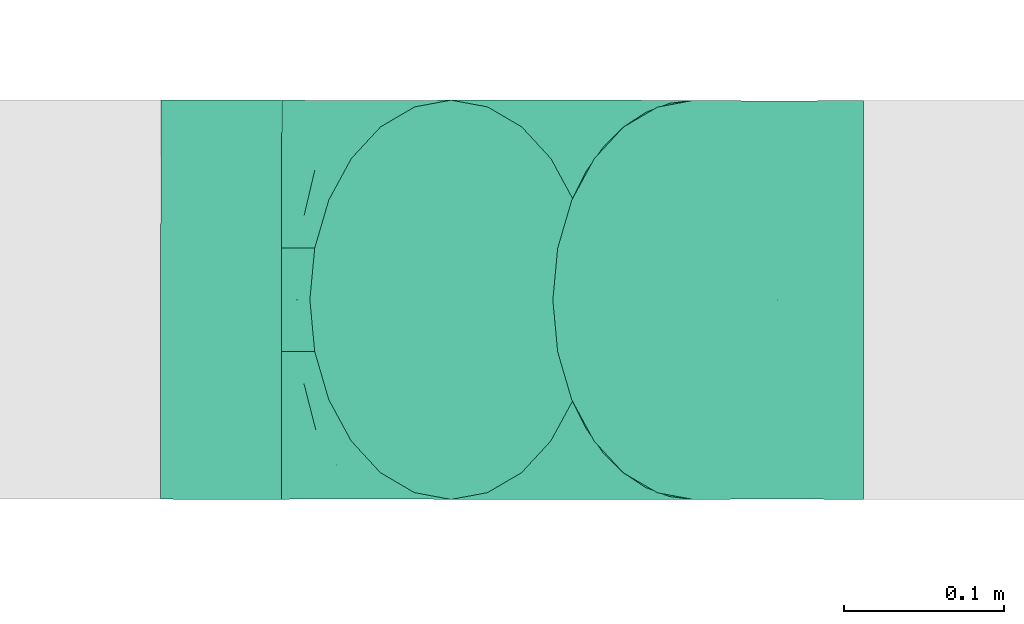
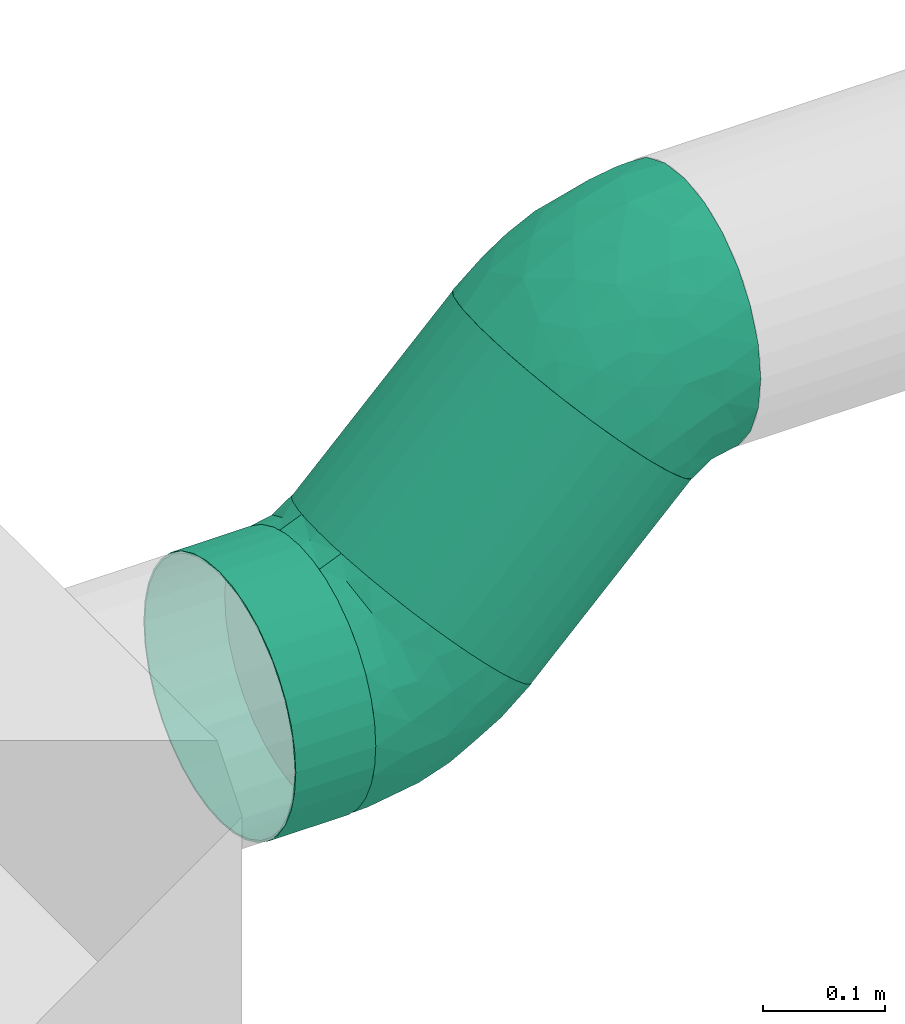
# One storey, part 38 of 63: 2 flow fittings, 2 flow segments.
"""IFC2X3 building model written with IfcOpenShell, lengths in millimetres."""

from ifc_helpers import new_model, entity, si_unit, converted_unit, derived_unit, direction, frame, origin_with_axes, origin_2d_with_axis, place, context, subcontext, project, spatial, hollow_circle, extrude, open_shell, surface_model, source, transform, mapped, type_object, element, save


model = new_model("IFC2X3")

# Units and contexts
model_context = context("Model", 3, precision=0.01, world=frame((0.0, 4.29681676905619e-09, 0.0)), true_north=direction((4.01073788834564e-13, 1.0)))
plan_context = context("Plan", 3, precision=0.01, world=frame((0.0, 4.29681676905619e-09, 0.0)), true_north=direction((4.01073788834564e-13, 1.0)))
body_context = subcontext(model_context, "Body", "Model", "MODEL_VIEW")
ifc_project = project(units=[converted_unit("PLANEANGLEUNIT", "DEGREE", entity("IfcPositiveLengthMeasure", 0.0174532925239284), si_unit("PLANEANGLEUNIT", "RADIAN"), dimensions=[0, 0, 0, 0, 0, 0, 0]), si_unit("AREAUNIT", "SQUARE_METRE"), si_unit("LENGTHUNIT", "METRE", prefix="MILLI"), si_unit("MASSUNIT", "GRAM", prefix="KILO"), si_unit("POWERUNIT", "WATT"), si_unit("PRESSUREUNIT", "PASCAL"), si_unit("FORCEUNIT", "NEWTON", prefix="KILO"), si_unit("ELECTRICVOLTAGEUNIT", "VOLT"), si_unit("ELECTRICCURRENTUNIT", "AMPERE"), si_unit("THERMODYNAMICTEMPERATUREUNIT", "DEGREE_CELSIUS"), si_unit("TIMEUNIT", "SECOND"), si_unit("VOLUMEUNIT", "CUBIC_METRE"), derived_unit("LINEARVELOCITYUNIT", [(si_unit("LENGTHUNIT", "METRE"), 1), (si_unit("TIMEUNIT", "SECOND"), -1)]), derived_unit("VOLUMETRICFLOWRATEUNIT", [(si_unit("VOLUMEUNIT", "CUBIC_METRE"), 1), (si_unit("TIMEUNIT", "SECOND"), -1)]), derived_unit("THERMALTRANSMITTANCEUNIT", [(si_unit("POWERUNIT", "WATT"), 1), (si_unit("THERMODYNAMICTEMPERATUREUNIT", "KELVIN"), -1), (si_unit("AREAUNIT", "SQUARE_METRE"), -1)]), derived_unit("SOUNDPRESSUREUNIT", [(si_unit("PRESSUREUNIT", "PASCAL"), 1)])], contexts=[model_context, plan_context])

# Site, building, storey
site_placement = place(None, frame((0.0, -4.29681676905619e-09, 0.0), z_axis=(0.0, 0.0, 1.0), x_axis=(1.0, 0.0, 0.0)))
site = spatial("IfcSite", under=ifc_project, at=site_placement, CompositionType="ELEMENT")
building_placement = place(site_placement, frame((0.0, 4.29681676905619e-09, 0.0), z_axis=(0.0, 0.0, 1.0), x_axis=(1.0, 0.0, 0.0)))
building = spatial("IfcBuilding", under=site, at=building_placement, Name="mc-building", CompositionType="ELEMENT")
storey_placement = place(building_placement, frame((0.0, 0.0, 210900.0), z_axis=(0.0, 0.0, 1.0), x_axis=(1.0, 0.0, 0.0)))
storey = spatial("IfcBuildingStorey", under=building, at=storey_placement, Name="Nivå F", CompositionType="ELEMENT", Elevation=210900.0)

# Flow fittings
duct_fitting_type = type_object("IfcDuctFittingType", Name="magicirc_elbow_short_001", PredefinedType="BEND")
shared_shape_1 = source(origin_with_axes(), body_context, "Body", "SurfaceModel", [
    surface_model("IfcShellBasedSurfaceModel", [(-62.13204, 0.0, -125.0), (-62.13204, -32.35238, -120.74073), (-62.13204, 32.35238, -120.74073), (-62.13204, 62.5, -108.25318), (-62.13204, 88.38835, -88.38835), (-62.13204, 108.25318, -62.5), (-62.13204, 120.74073, -32.35238), (-62.13204, -62.5, -108.25318), (-62.13204, -88.38835, -88.38835), (-62.13204, -125.0, 0.0), (-62.13204, -108.25318, -62.5), (-62.13204, -120.74073, -32.35238), (-62.13204, 125.0, 0.0), (-62.13204, -120.74073, 32.35238), (-62.13204, 120.74073, 32.35238), (-62.13204, 108.25318, 62.5), (-62.13204, 32.35238, 120.74073), (-62.13204, 62.5, 108.25318), (-62.13204, 88.38835, 88.38835), (-62.13204, -88.38835, 88.38835), (-62.13204, -108.25318, 62.5), (-62.13204, -32.35238, 120.74073), (-62.13204, 0.0, 125.0), (-62.13204, -62.5, 108.25318), (-32.61257, 120.48054, -62.5), (-41.44261, 129.31057, -32.35238), (-44.45436, 132.32233, 0.0), (-41.44261, 129.31057, 32.35238), (-32.61257, 120.48054, 62.5), (-39.32094, -100.77129, 72.52866), (-25.3983, -115.58366, 40.92131), (-9.38975, -99.61313, 67.6303), (-40.71594, 99.20513, 81.38635), (-18.56602, 106.43398, 88.38835), (6.93461, -16.74165, 121.22697), (-29.92798, -19.88945, 122.8817), (-17.69423, -50.99343, 111.83063), (-28.63512, 12.8945, 124.68547), (-43.55871, 45.16564, 117.17454), (-19.1971, 46.34588, 119.14586), (20.11216, -107.05726, 35.36285), (37.22525, -89.79474, 60.1728), (-42.64489, 65.81413, 107.6176), (18.18237, -43.89615, 109.72868), (-48.14682, 116.23669, 52.46898), (11.13029, 29.36587, 124.68547), (-8.4822, -119.71595, 0.0), (17.31186, -111.89141, 0.0), (-27.44697, 77.92943, 103.54984), (-1.13628, 62.73759, 117.17454), (-0.26019, 88.12816, 108.25318), (29.58221, -71.41779, 87.09722), (2.27359, -83.55864, 84.32151), (46.20365, -49.09439, 98.73245), (43.10591, -104.06687, 0.0), (-28.63512, 12.89449, -124.68547), (-29.92797, -19.88945, -122.8817), (11.13029, 29.36586, -124.68547), (-19.1971, 46.34588, -119.14586), (-43.55871, 45.16564, -117.17454), (-35.69649, 74.51237, -103.54983), (-25.3983, -115.58366, -40.92131), (-48.14682, 116.23669, -52.46898), (-39.32094, -100.77129, -72.52866), (-16.38313, 76.69211, -107.6176), (-18.56602, 106.43398, -88.38835), (-0.26019, 88.12816, -108.25318), (-17.69423, -50.99343, -111.83063), (6.93461, -16.74165, -121.22697), (-1.13628, 62.73759, -117.17454), (48.5695, -23.54609, -111.83063), (35.22623, 7.0983, -122.8817), (-9.38975, -99.61313, -67.63031), (2.04406, -67.38589, -98.73245), (29.58221, -71.41778, -87.09723), (43.93399, 43.934, -125.0), (106.43399, -18.56599, 88.38835), (132.32235, -44.45434, 0.0), (21.05739, 66.81058, -120.74073), (88.12817, -0.26017, 108.25318), (66.81057, 21.05741, -120.74073), (106.43399, -18.56599, -88.38835), (88.12817, -0.26017, -108.25318), (129.31058, -41.44258, -32.35238), (120.48055, -32.61255, -62.5), (21.05739, 66.81058, 120.74073), (43.93399, 43.934, 125.0), (129.31058, -41.44258, 32.35238), (120.48055, -32.61255, 62.5), (66.81057, 21.05741, 120.74073), (-31.08246, -121.94188, 0.0), (35.22622, 7.09831, 122.8817), (-25.98217, -78.69805, 94.74512), (-3.43913, -67.17105, 100.02812), (77.07669, -63.79755, 67.6303), (61.9235, -89.5906, 35.66991), (-52.56496, 126.90301, 0.0), (99.68931, -63.77067, 40.92131), (48.5695, -23.54609, 111.83062), (99.06018, -43.45194, 72.52866), (74.0201, -37.27574, 94.74512), (108.20455, -64.2473, 0.0), (90.64979, -78.65413, 0.0), (66.87785, -91.36049, 0.0), (19.56361, -107.13664, -35.66991), (-41.35812, 98.93914, -81.38635), (-25.98217, -78.69805, -94.74512), (61.47949, -89.92235, -35.36285), (18.18239, -43.89616, -109.72867), (57.47721, -60.69254, -84.32152), (74.02009, -37.27574, -94.74513), (77.07669, -63.79755, -67.6303), (37.17223, -89.81669, -60.17279), (99.68931, -63.77066, -40.92131), (99.06018, -43.45194, -72.52866), (49.92893, -45.06527, -100.02812)], [open_shell([[[0, 1, 2]], [[3, 2, 4]], [[1, 5, 2]], [[4, 2, 5]], [[5, 1, 6]], [[7, 8, 1]], [[9, 1, 8]], [[10, 11, 8]], [[9, 8, 11]], [[9, 6, 1]], [[9, 12, 6]], [[12, 13, 14]], [[15, 14, 16]], [[16, 17, 18]], [[15, 16, 18]], [[16, 14, 19]], [[20, 19, 13]], [[19, 14, 13]], [[21, 22, 23]], [[19, 23, 22]], [[19, 22, 16]], [[9, 13, 12]], [[24, 25, 26]], [[26, 27, 28]], [[29, 30, 31]], [[32, 33, 28]], [[30, 20, 13]], [[34, 35, 36]], [[21, 35, 22]], [[21, 23, 36]], [[16, 22, 37]], [[38, 37, 39]], [[31, 40, 41]], [[42, 17, 38]], [[38, 17, 16]], [[43, 34, 36]], [[35, 37, 22]], [[14, 15, 44]], [[42, 32, 18]], [[29, 19, 20]], [[40, 31, 30]], [[37, 45, 39]], [[45, 37, 34]], [[40, 46, 47]], [[42, 18, 17]], [[33, 32, 48]], [[27, 44, 28]], [[48, 39, 49]], [[33, 48, 50]], [[44, 32, 28]], [[18, 32, 15]], [[36, 35, 21]], [[37, 35, 34]], [[41, 51, 52]], [[14, 44, 27]], [[32, 44, 15]], [[37, 38, 16]], [[42, 39, 48]], [[39, 42, 38]], [[42, 48, 32]], [[48, 49, 50]], [[45, 49, 39]], [[30, 29, 20]], [[53, 43, 51]], [[46, 40, 30]], [[47, 54, 40]], [[41, 52, 31]], [[0, 2, 55]], [[56, 1, 0]], [[57, 55, 58]], [[59, 60, 58]], [[10, 61, 11]], [[3, 4, 60]], [[62, 6, 25]], [[61, 10, 63]], [[64, 65, 66]], [[1, 56, 67]], [[8, 63, 10]], [[7, 1, 67]], [[56, 55, 68]], [[25, 24, 62]], [[69, 64, 66]], [[2, 3, 59]], [[59, 55, 2]], [[69, 57, 58]], [[70, 68, 71]], [[55, 57, 68]], [[55, 56, 0]], [[67, 56, 68]], [[57, 71, 68]], [[6, 62, 5]], [[60, 59, 3]], [[55, 59, 58]], [[64, 58, 60]], [[58, 64, 69]], [[61, 63, 72]], [[72, 73, 74]], [[75, 76, 77]], [[66, 26, 78]], [[78, 79, 75]], [[24, 66, 65]], [[66, 24, 26]], [[80, 81, 82]], [[80, 75, 81]], [[81, 83, 84]], [[83, 81, 77]], [[75, 77, 81]], [[26, 28, 50]], [[50, 85, 26]], [[50, 28, 33]], [[26, 85, 86]], [[87, 76, 88]], [[77, 76, 87]], [[79, 86, 89]], [[76, 75, 79]], [[86, 79, 26]], [[78, 26, 79]], [[90, 46, 30]], [[91, 45, 34]], [[23, 92, 36]], [[52, 93, 92]], [[94, 41, 95]], [[23, 19, 92]], [[96, 14, 27]], [[40, 95, 41]], [[96, 12, 14]], [[94, 95, 97]], [[40, 54, 95]], [[98, 89, 91]], [[99, 88, 76]], [[89, 98, 79]], [[88, 99, 97]], [[88, 97, 87]], [[98, 100, 79]], [[53, 94, 100]], [[97, 101, 87]], [[85, 50, 49]], [[41, 94, 51]], [[30, 13, 90]], [[26, 96, 27]], [[95, 102, 97]], [[95, 54, 103]], [[86, 91, 89]], [[86, 85, 45]], [[45, 85, 49]], [[34, 43, 98]], [[29, 92, 19]], [[79, 100, 76]], [[52, 92, 31]], [[95, 103, 102]], [[53, 100, 98]], [[99, 100, 94]], [[45, 91, 86]], [[98, 91, 34]], [[13, 9, 90]], [[101, 97, 102]], [[101, 77, 87]], [[92, 29, 31]], [[100, 99, 76]], [[97, 99, 94]], [[93, 36, 92]], [[51, 43, 93]], [[51, 93, 52]], [[43, 36, 93]], [[43, 53, 98]], [[94, 53, 51]], [[104, 46, 61]], [[78, 75, 57]], [[4, 105, 60]], [[73, 72, 106]], [[80, 82, 70]], [[61, 90, 11]], [[83, 77, 101]], [[106, 7, 67]], [[107, 102, 103]], [[104, 54, 47]], [[72, 104, 61]], [[106, 8, 7]], [[68, 108, 67]], [[6, 12, 96]], [[109, 110, 111]], [[96, 26, 25]], [[112, 72, 74]], [[113, 83, 101]], [[82, 81, 110]], [[113, 84, 83]], [[64, 105, 65]], [[4, 5, 105]], [[114, 81, 84]], [[110, 109, 115]], [[70, 82, 110]], [[66, 78, 69]], [[75, 80, 71]], [[111, 114, 113]], [[108, 68, 70]], [[113, 101, 102]], [[107, 104, 112]], [[107, 111, 113]], [[111, 107, 112]], [[71, 57, 75]], [[104, 47, 46]], [[96, 25, 6]], [[114, 110, 81]], [[107, 54, 104]], [[73, 106, 67]], [[63, 106, 72]], [[62, 105, 5]], [[65, 105, 24]], [[70, 71, 80]], [[90, 61, 46]], [[90, 9, 11]], [[72, 112, 104]], [[112, 74, 109]], [[105, 62, 24]], [[57, 69, 78]], [[64, 60, 105]], [[113, 114, 84]], [[110, 114, 111]], [[106, 63, 8]], [[115, 70, 110]], [[73, 108, 74]], [[102, 107, 113]], [[103, 54, 107]], [[112, 109, 111]], [[74, 108, 115]], [[74, 115, 109]], [[108, 70, 115]], [[108, 73, 67]]])]),
])
flow_fitting_1_placement = place(storey_placement, frame((525657.90295, 460995.59361, 3960.01264), z_axis=(-0.000647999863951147, -0.999999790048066, 0.0), x_axis=(0.999999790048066, -0.000647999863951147, 0.0)))
element("IfcFlowFitting", 1, at=flow_fitting_1_placement, inside=storey, type_object=duct_fitting_type, Name="magicirc_elbow_short_001", context=body_context, shape_type="MappedRepresentation", body=[
    mapped(shared_shape_1, transform((0.0, 0.0, 0.0), scale=1.0)),
])
shared_shape_2 = source(origin_with_axes(), body_context, "Body", "SurfaceModel", [
    surface_model("IfcShellBasedSurfaceModel", [(-62.13204, 0.0, -125.0), (-62.13204, -32.35238, -120.74073), (-62.13204, 32.35238, -120.74073), (-62.13204, 62.5, -108.25318), (-62.13204, 88.38835, -88.38835), (-62.13204, 108.25318, -62.5), (-62.13204, 120.74073, -32.35238), (-62.13204, -62.5, -108.25318), (-62.13204, -88.38835, -88.38835), (-62.13204, -125.0, 0.0), (-62.13204, -108.25318, -62.5), (-62.13204, -120.74073, -32.35238), (-62.13204, 125.0, 0.0), (-62.13204, -120.74073, 32.35238), (-62.13204, 120.74073, 32.35238), (-62.13204, 108.25318, 62.5), (-62.13204, 32.35238, 120.74073), (-62.13204, 62.5, 108.25318), (-62.13204, 88.38835, 88.38835), (-62.13204, -88.38835, 88.38835), (-62.13204, -108.25318, 62.5), (-62.13204, -32.35238, 120.74073), (-62.13204, 0.0, 125.0), (-62.13204, -62.5, 108.25318), (-32.61257, 120.48054, -62.5), (-41.44261, 129.31057, -32.35238), (-44.45436, 132.32233, 0.0), (-41.44261, 129.31057, 32.35238), (-32.61257, 120.48054, 62.5), (-39.32094, -100.77129, 72.52866), (-25.3983, -115.58366, 40.92131), (-9.38975, -99.61313, 67.6303), (-40.71594, 99.20513, 81.38635), (-18.56602, 106.43398, 88.38835), (6.93461, -16.74165, 121.22697), (-29.92798, -19.88945, 122.8817), (-17.69423, -50.99343, 111.83063), (-28.63512, 12.8945, 124.68547), (-43.55871, 45.16564, 117.17454), (-19.1971, 46.34588, 119.14586), (20.11216, -107.05726, 35.36285), (37.22525, -89.79474, 60.1728), (-42.64489, 65.81413, 107.6176), (18.18237, -43.89615, 109.72868), (-48.14682, 116.23669, 52.46898), (11.13029, 29.36587, 124.68547), (-8.4822, -119.71595, 0.0), (17.31186, -111.89141, 0.0), (-27.44697, 77.92943, 103.54984), (-1.13628, 62.73759, 117.17454), (-0.26019, 88.12816, 108.25318), (29.58221, -71.41779, 87.09722), (2.27359, -83.55864, 84.32151), (46.20365, -49.09439, 98.73245), (43.10591, -104.06687, 0.0), (-28.63512, 12.89449, -124.68547), (-29.92797, -19.88945, -122.8817), (11.13029, 29.36586, -124.68547), (-19.1971, 46.34588, -119.14586), (-43.55871, 45.16564, -117.17454), (-35.69649, 74.51237, -103.54983), (-25.3983, -115.58366, -40.92131), (-48.14682, 116.23669, -52.46898), (-39.32094, -100.77129, -72.52866), (-16.38313, 76.69211, -107.6176), (-18.56602, 106.43398, -88.38835), (-0.26019, 88.12816, -108.25318), (-17.69423, -50.99343, -111.83063), (6.93461, -16.74165, -121.22697), (-1.13628, 62.73759, -117.17454), (48.5695, -23.54609, -111.83063), (35.22623, 7.0983, -122.8817), (-9.38975, -99.61313, -67.63031), (2.04406, -67.38589, -98.73245), (29.58221, -71.41778, -87.09723), (43.93399, 43.934, -125.0), (106.43399, -18.56599, 88.38835), (132.32235, -44.45434, 0.0), (21.05739, 66.81058, -120.74073), (88.12817, -0.26017, 108.25318), (66.81057, 21.05741, -120.74073), (106.43399, -18.56599, -88.38835), (88.12817, -0.26017, -108.25318), (129.31058, -41.44258, -32.35238), (120.48055, -32.61255, -62.5), (21.05739, 66.81058, 120.74073), (43.93399, 43.934, 125.0), (129.31058, -41.44258, 32.35238), (120.48055, -32.61255, 62.5), (66.81057, 21.05741, 120.74073), (-31.08246, -121.94188, 0.0), (35.22622, 7.09831, 122.8817), (77.07669, -63.79755, 67.6303), (61.9235, -89.5906, 35.66991), (-52.56496, 126.90301, 0.0), (99.68931, -63.77067, 40.92131), (48.5695, -23.54609, 111.83062), (99.06018, -43.45194, 72.52866), (74.0201, -37.27574, 94.74512), (108.20455, -64.2473, 0.0), (90.64979, -78.65413, 0.0), (66.87785, -91.36049, 0.0), (-3.43913, -67.17105, 100.02812), (19.56361, -107.13664, -35.66991), (-41.35812, 98.93914, -81.38635), (-25.98217, -78.69805, -94.74512), (61.47949, -89.92235, -35.36285), (18.18239, -43.89616, -109.72867), (57.47721, -60.69254, -84.32152), (74.02009, -37.27574, -94.74513), (77.07669, -63.79755, -67.6303), (37.17223, -89.81669, -60.17279), (99.68931, -63.77066, -40.92131), (99.06018, -43.45194, -72.52866), (49.92893, -45.06527, -100.02812), (-25.98217, -78.69805, 94.74512)], [open_shell([[[0, 1, 2]], [[3, 2, 4]], [[1, 5, 2]], [[4, 2, 5]], [[5, 1, 6]], [[7, 8, 1]], [[9, 1, 8]], [[10, 11, 8]], [[9, 8, 11]], [[9, 6, 1]], [[9, 12, 6]], [[12, 13, 14]], [[15, 14, 16]], [[16, 17, 18]], [[15, 16, 18]], [[16, 14, 19]], [[20, 19, 13]], [[19, 14, 13]], [[21, 22, 23]], [[19, 23, 22]], [[19, 22, 16]], [[9, 13, 12]], [[24, 25, 26]], [[26, 27, 28]], [[29, 30, 31]], [[32, 33, 28]], [[30, 20, 13]], [[34, 35, 36]], [[21, 35, 22]], [[21, 23, 36]], [[16, 22, 37]], [[38, 37, 39]], [[31, 40, 41]], [[42, 17, 38]], [[38, 17, 16]], [[43, 34, 36]], [[35, 37, 22]], [[14, 15, 44]], [[42, 32, 18]], [[29, 19, 20]], [[40, 31, 30]], [[37, 45, 39]], [[45, 37, 34]], [[40, 46, 47]], [[42, 18, 17]], [[33, 32, 48]], [[27, 44, 28]], [[48, 39, 49]], [[33, 48, 50]], [[44, 32, 28]], [[18, 32, 15]], [[36, 35, 21]], [[37, 35, 34]], [[41, 51, 52]], [[14, 44, 27]], [[32, 44, 15]], [[37, 38, 16]], [[42, 39, 48]], [[39, 42, 38]], [[42, 48, 32]], [[48, 49, 50]], [[45, 49, 39]], [[30, 29, 20]], [[53, 43, 51]], [[46, 40, 30]], [[47, 54, 40]], [[41, 52, 31]], [[0, 2, 55]], [[56, 1, 0]], [[57, 55, 58]], [[59, 60, 58]], [[10, 61, 11]], [[3, 4, 60]], [[62, 6, 25]], [[61, 10, 63]], [[64, 65, 66]], [[1, 56, 67]], [[8, 63, 10]], [[7, 1, 67]], [[56, 55, 68]], [[25, 24, 62]], [[69, 64, 66]], [[2, 3, 59]], [[59, 55, 2]], [[69, 57, 58]], [[70, 68, 71]], [[55, 57, 68]], [[55, 56, 0]], [[67, 56, 68]], [[57, 71, 68]], [[6, 62, 5]], [[60, 59, 3]], [[55, 59, 58]], [[64, 58, 60]], [[58, 64, 69]], [[61, 63, 72]], [[72, 73, 74]], [[75, 76, 77]], [[66, 26, 78]], [[78, 79, 75]], [[24, 66, 65]], [[66, 24, 26]], [[80, 81, 82]], [[80, 75, 81]], [[81, 83, 84]], [[83, 81, 77]], [[75, 77, 81]], [[26, 28, 50]], [[50, 85, 26]], [[50, 28, 33]], [[26, 85, 86]], [[87, 76, 88]], [[77, 76, 87]], [[79, 86, 89]], [[76, 75, 79]], [[86, 79, 26]], [[78, 26, 79]], [[90, 46, 30]], [[91, 45, 34]], [[92, 41, 93]], [[94, 14, 27]], [[40, 93, 41]], [[94, 12, 14]], [[92, 93, 95]], [[40, 54, 93]], [[96, 89, 91]], [[97, 88, 76]], [[89, 96, 79]], [[88, 97, 95]], [[88, 95, 87]], [[96, 98, 79]], [[53, 92, 98]], [[95, 99, 87]], [[85, 50, 49]], [[41, 92, 51]], [[30, 13, 90]], [[26, 94, 27]], [[93, 100, 95]], [[93, 54, 101]], [[86, 91, 89]], [[86, 85, 45]], [[45, 85, 49]], [[34, 43, 96]], [[79, 98, 76]], [[93, 101, 100]], [[53, 98, 96]], [[97, 98, 92]], [[45, 91, 86]], [[96, 91, 34]], [[13, 9, 90]], [[99, 95, 100]], [[99, 77, 87]], [[98, 97, 76]], [[95, 97, 92]], [[51, 43, 102]], [[51, 102, 52]], [[43, 36, 102]], [[43, 53, 96]], [[92, 53, 51]], [[103, 46, 61]], [[78, 75, 57]], [[4, 104, 60]], [[73, 72, 105]], [[80, 82, 70]], [[61, 90, 11]], [[83, 77, 99]], [[105, 7, 67]], [[106, 100, 101]], [[103, 54, 47]], [[72, 103, 61]], [[105, 8, 7]], [[68, 107, 67]], [[6, 12, 94]], [[108, 109, 110]], [[94, 26, 25]], [[111, 72, 74]], [[112, 83, 99]], [[82, 81, 109]], [[112, 84, 83]], [[64, 104, 65]], [[4, 5, 104]], [[113, 81, 84]], [[109, 108, 114]], [[70, 82, 109]], [[66, 78, 69]], [[75, 80, 71]], [[110, 113, 112]], [[107, 68, 70]], [[112, 99, 100]], [[106, 103, 111]], [[106, 110, 112]], [[110, 106, 111]], [[71, 57, 75]], [[103, 47, 46]], [[94, 25, 6]], [[113, 109, 81]], [[106, 54, 103]], [[73, 105, 67]], [[63, 105, 72]], [[62, 104, 5]], [[65, 104, 24]], [[70, 71, 80]], [[90, 61, 46]], [[90, 9, 11]], [[72, 111, 103]], [[111, 74, 108]], [[104, 62, 24]], [[57, 69, 78]], [[64, 60, 104]], [[112, 113, 84]], [[109, 113, 110]], [[105, 63, 8]], [[114, 70, 109]], [[73, 107, 74]], [[100, 106, 112]], [[101, 54, 106]], [[111, 108, 110]], [[74, 107, 114]], [[74, 114, 108]], [[107, 70, 114]], [[107, 73, 67]], [[23, 115, 36]], [[52, 102, 115]], [[23, 19, 115]], [[29, 115, 19]], [[52, 115, 31]], [[115, 29, 31]], [[102, 36, 115]]])]),
])
flow_fitting_2_placement = place(storey_placement, frame((525897.8902, 460995.43816, 4200.0), z_axis=(-3.79470760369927e-19, 0.999999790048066, 0.000647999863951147), x_axis=(0.707106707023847, -0.000458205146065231, 0.707106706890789)))
element("IfcFlowFitting", 2, at=flow_fitting_2_placement, inside=storey, type_object=duct_fitting_type, Name="magicirc_elbow_short_001", context=body_context, shape_type="MappedRepresentation", body=[
    mapped(shared_shape_2, transform((0.0, 0.0, 0.0), scale=1.0)),
])

# Flow segments
duct_segment_type = type_object("IfcDuctSegmentType", Name="KK002T - Spiro kanaler, Forsinket stål, korte bend", PredefinedType="RIGIDSEGMENT")
shared_shape_3 = source(origin_with_axes(), body_context, "Body", "SweptSolid", [
    extrude(hollow_circle(Radius=125.0, WallThickness=2.0, at=origin_2d_with_axis()), frame((0.0, 0.0, 0.0), z_axis=(1.0, 0.0, 0.0), x_axis=(0.0, 1.0, 0.0)), (0.0, 0.0, 1.0), 75.7),
])
flow_segment_1_placement = place(storey_placement, frame((525520.05094, 460995.68291, 3960.01264), z_axis=(0.0, 0.0, 1.0), x_axis=(0.999999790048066, -0.000647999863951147, 0.0)))
element("IfcFlowSegment", 3, at=flow_segment_1_placement, inside=storey, type_object=duct_segment_type, Name="KK002T - Spiro kanaler, Forsinket stål, korte bend", context=body_context, shape_type="MappedRepresentation", body=[
    mapped(shared_shape_3, transform((0.0, 0.0, 0.0), scale=1.0)),
])
shared_shape_4 = source(origin_with_axes(), body_context, "Body", "SweptSolid", [
    extrude(hollow_circle(Radius=125.0, WallThickness=2.0, at=origin_2d_with_axis()), frame((0.0, 0.0, 0.0), z_axis=(1.0, 0.0, 0.0), x_axis=(0.0, 1.0, 0.0)), (0.0, 0.0, 1.0), 215.1),
])
flow_segment_2_placement = place(storey_placement, frame((525701.83693, 460995.56516, 4003.94662999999), z_axis=(-0.707106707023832, 0.00045799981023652, 0.707106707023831), x_axis=(0.707106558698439, -0.000457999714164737, 0.707106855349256)))
element("IfcFlowSegment", 4, at=flow_segment_2_placement, inside=storey, type_object=duct_segment_type, Name="KK002T - Spiro kanaler, Forsinket stål, korte bend", context=body_context, shape_type="MappedRepresentation", body=[
    mapped(shared_shape_4, transform((0.0, 0.0, 0.0), scale=1.0)),
])

save(model, "model.ifc")
